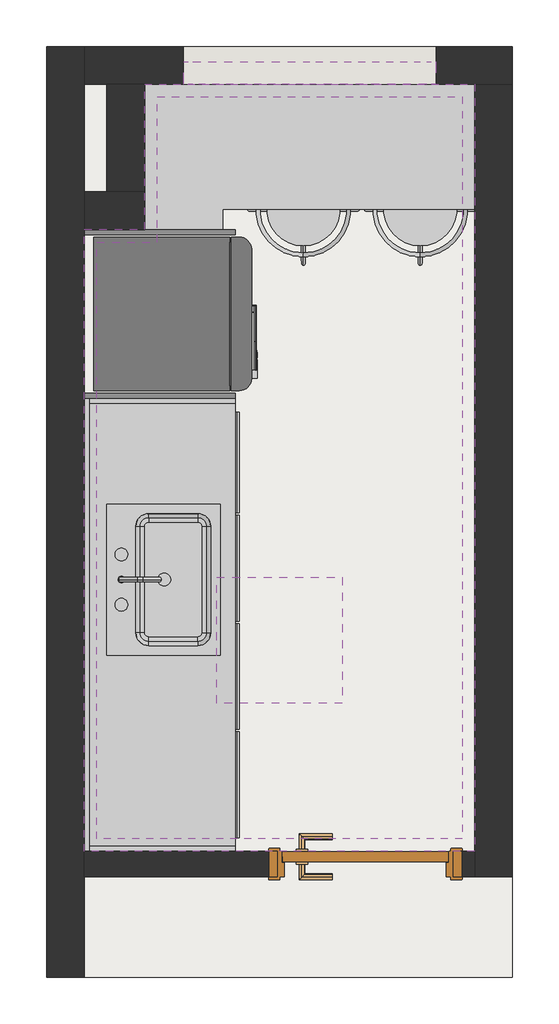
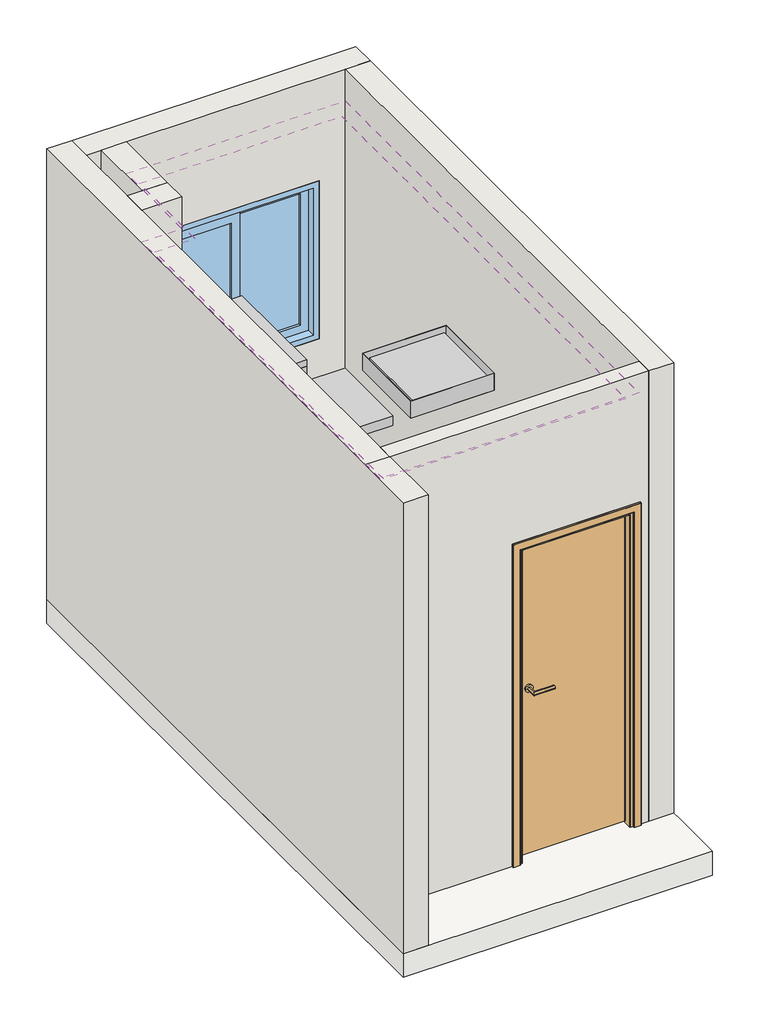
# One storey, incomplete: 6 walls, 3 furniture elements, 2 coverings, 1 door, 1 flow terminal, 1 light fixture, 1 proxy, 1 slab, 1 window.
"""IFC4 building model written with IfcOpenShell, lengths in millimetres."""

from ifc_helpers import new_model, si_unit, frame, origin, origin_with_axes, place, context, project, spatial, polyline, circle_curve, outline, extrude, faceted_brep, transform, mapped, element, save
from ifc_brep_helpers import plane_surface, revolved_surface, advanced_brep
from components import type_a_472c7ea6, porta_entrada_porta_entrada_e29db034, flow_terminal_7ddc1dd5, furniture_1e534c35, cozinha_completa_cozinha_completa_c358d093, plafon_ee325480, window_a0ad160f

model = new_model("IFC4")

# Units and contexts
model_context = context("Model", 3, world=origin())
ifc_project = project(units=[si_unit("LENGTHUNIT", "METRE", prefix="MILLI")], contexts=[model_context])

# Site, building, storey
site = spatial("IfcSite", under=ifc_project)
building = spatial("IfcBuilding", under=site)
storey = spatial("IfcBuildingStorey", under=building, Name="Nível 1", Elevation=0.0)

# Proxy
placement = place(None, origin())
type_a_shape = type_a_472c7ea6(model_context)
element("IfcBuildingElementProxy", 1, Name="SMEG_-_Retro_Refrigerator_13153 : Type A", ObjectType="SMEG_-_Retro_Refrigerator_13153 : Type A", at=placement, inside=storey, context=model_context, shape_type="MappedRepresentation", body=[
    mapped(type_a_shape, transform((-1344.1545114, 1537.5335274, 0.0), x_axis=(0.0, -1.0, 0.0), y_axis=(1.0, 0.0, 0.0), z_axis=(0.0, 0.0, 1.0))),
])

# Coverings
element("IfcCovering", 2, ObjectType="Simples", at=placement, inside=storey, context=model_context, shape_type="AdvancedBrep", body=[
    advanced_brep(
    [(-1331.9804234, -547.5642977, 2650.0), (118.0195766, -547.5642977, 2650.0), (118.0195766, 2399.1357023, 2650.0), (-1091.9804234, 2399.1357023, 2650.0), (-1091.9804234, 1822.4357023, 2650.0), (-1331.9804234, 1822.4357023, 2650.0), (118.0195766, -547.5642977, 2600.0), (-1331.9804234, -547.5642977, 2600.0), (-1331.9804234, 1822.4357023, 2600.0), (-1091.9804234, 1822.4357023, 2600.0), (-1091.9804234, 2399.1357023, 2600.0), (118.0195766, 2399.1357023, 2600.0), (-672.7970901, 2168.4357023, 2600.0), (-704.4970901, 2168.4357023, 2600.0), (-269.4637568, 2168.4357023, 2600.0), (-301.1637568, 2168.4357023, 2600.0), (-704.4970901, 2168.4357023, 2631.9926449), (-672.7970901, 2168.4357023, 2631.9926449), (-301.1637568, 2168.4357023, 2631.9926449), (-269.4637568, 2168.4357023, 2631.9926449)],
    [
        (0, 1),
        (1, 2),
        (2, 3),
        (3, 4),
        (4, 5),
        (5, 0),
        (6, 7),
        (7, 8),
        (8, 9),
        (9, 10),
        (10, 11),
        (11, 6),
        (12, 13, circle_curve(frame((-688.6470901, 2168.4357023, 2600.0), z_axis=(0.0, 0.0, 1.0), x_axis=(1.0, 0.0, 0.0)), 15.85)),
        (13, 12, circle_curve(frame((-688.6470901, 2168.4357023, 2600.0), z_axis=(0.0, 0.0, 1.0), x_axis=(1.0, 0.0, 0.0)), 15.85)),
        (14, 15, circle_curve(frame((-285.3137568, 2168.4357023, 2600.0), z_axis=(0.0, 0.0, 1.0), x_axis=(1.0, 0.0, 0.0)), 15.85)),
        (15, 14, circle_curve(frame((-285.3137568, 2168.4357023, 2600.0), z_axis=(0.0, 0.0, 1.0), x_axis=(1.0, 0.0, 0.0)), 15.85)),
        (0, 7),
        (6, 1),
        (11, 2),
        (10, 3),
        (9, 4),
        (8, 5),
        (16, 17, circle_curve(frame((-688.6470901, 2168.4357023, 2631.9926449), z_axis=(0.0, 0.0, -1.0), x_axis=(1.0, 0.0, 0.0)), 15.85)),
        (17, 16, circle_curve(frame((-688.6470901, 2168.4357023, 2631.9926449), z_axis=(0.0, 0.0, -1.0), x_axis=(1.0, 0.0, 0.0)), 15.85)),
        (16, 13),
        (12, 17),
        (18, 19, circle_curve(frame((-285.3137568, 2168.4357023, 2631.9926449), z_axis=(0.0, 0.0, -1.0), x_axis=(1.0, 0.0, 0.0)), 15.85)),
        (19, 18, circle_curve(frame((-285.3137568, 2168.4357023, 2631.9926449), z_axis=(0.0, 0.0, -1.0), x_axis=(1.0, 0.0, 0.0)), 15.85)),
        (18, 15),
        (14, 19),
    ],
    [
        plane_surface(frame((243.0195766, -547.5642977, 2650.0), z_axis=(0.0, 0.0, 1.0), x_axis=(1.0, 0.0, 0.0))),
        plane_surface(frame((243.0195766, -547.5642977, 2600.0), z_axis=(0.0, 0.0, -1.0), x_axis=(-1.0, 0.0, 0.0))),
        plane_surface(frame((-1331.9804234, -547.5642977, 2650.0), z_axis=(0.0, -1.0, 0.0), x_axis=(0.0, 0.0, -1.0))),
        plane_surface(frame((118.0195766, -547.5642977, 2650.0), z_axis=(1.0, 0.0, 0.0), x_axis=(0.0, 0.0, -1.0))),
        plane_surface(frame((118.0195766, 2399.1357023, 2650.0), z_axis=(0.0, 1.0, 0.0), x_axis=(0.0, 0.0, -1.0))),
        plane_surface(frame((-1091.9804234, 2399.1357023, 2650.0), z_axis=(-1.0, 0.0, 0.0), x_axis=(0.0, 0.0, -1.0))),
        plane_surface(frame((-1091.9804234, 1822.4357023, 2650.0), z_axis=(0.0, 1.0, 0.0), x_axis=(0.0, 0.0, -1.0))),
        plane_surface(frame((-1331.9804234, 1822.4357023, 2650.0), z_axis=(-1.0, 0.0, 0.0), x_axis=(0.0, 0.0, -1.0))),
        plane_surface(frame((-672.7970901, 2168.4357023, 2631.9926449), z_axis=(0.0, 0.0, -1.0), x_axis=(0.0, 1.0, 0.0))),
        revolved_surface(polyline([(-672.7970901, 2168.4357023, 2600.0), (-672.7970901, 2168.4357023, 2631.9926449)]), (-688.6470901, 2168.4357023, 2631.9926449), (0.0, 0.0, -1.0)),
        plane_surface(frame((-269.4637568, 2168.4357023, 2631.9926449), z_axis=(0.0, 0.0, -1.0), x_axis=(0.0, 1.0, 0.0))),
        revolved_surface(polyline([(-269.4637568, 2168.4357023, 2600.0), (-269.4637568, 2168.4357023, 2631.9926449)]), (-285.3137568, 2168.4357023, 2631.9926449), (0.0, 0.0, -1.0)),
    ],
    [
        (0, [[1, 2, 3, 4, 5, 6]]),
        (1, [[7, 8, 9, 10, 11, 12], [13, 14], [15, 16]]),
        (2, [[-1, 17, -7, 18]]),
        (3, [[-2, -18, -12, 19]]),
        (4, [[-3, -19, -11, 20]]),
        (5, [[-4, -20, -10, 21]]),
        (6, [[-5, -21, -9, 22]]),
        (7, [[-6, -22, -8, -17]]),
        (8, [[23, 24]]),
        (9, [[-23, 25, -13, 26]]),
        (9, [[-24, -26, -14, -25]]),
        (10, [[27, 28]]),
        (11, [[-27, 29, -15, 30]]),
        (11, [[-28, -30, -16, -29]]),
    ],
),
])
element("IfcCovering", 3, ObjectType="Simples", at=placement, inside=storey, context=model_context, shape_type="SweptSolid", body=[
    extrude(outline(polyline([(-1381.9804234, -597.5642977), (-1381.9804234, 1872.4357023), (-1141.9804234, 1872.4357023), (-1141.9804234, 2449.1357023), (168.0195766, 2449.1357023), (168.0195766, -597.5642977), (-1381.9804234, -597.5642977)]), holes=[polyline([(68.0195766, -497.5642977), (68.0195766, 2349.1357023), (-1041.9804234, 2349.1357023), (-1041.9804234, 1772.4357023), (-1281.9804234, 1772.4357023), (-1281.9804234, -497.5642977), (68.0195766, -497.5642977)])]), frame((0.0, 0.0, 2650.0), z_axis=(0.0, 0.0, 1.0), x_axis=(1.0, 0.0, 0.0)), (0.0, 0.0, 1.0), 50.0),
])

# Door
porta_entrada_porta_entrada_shape = porta_entrada_porta_entrada_e29db034(model_context)
element("IfcDoor", 4, ObjectType="Porta Entrada : Porta Entrada", at=placement, inside=storey, context=model_context, shape_type="MappedRepresentation", body=[
    mapped(porta_entrada_porta_entrada_shape, transform((-265.9814194, -647.5642977, 0.0), x_axis=(1.0, 0.0, 0.0), y_axis=(0.0, 1.0, 0.0), z_axis=(0.0, 0.0, 1.0))),
])

# Flow terminal
flow_terminal_shape = flow_terminal_7ddc1dd5(model_context)
element("IfcFlowTerminal", 5, ObjectType="Pia Simples : Pia Simples", at=placement, inside=storey, context=model_context, shape_type="MappedRepresentation", body=[
    mapped(flow_terminal_shape, transform((-1064.6350223, 466.7464617, 0.0), x_axis=(0.0, 1.0, 0.0), y_axis=(-1.0, 0.0, 0.0), z_axis=(0.0, 0.0, 1.0))),
])

# Furniture
furniture_shape = furniture_1e534c35(model_context)
element("IfcFurniture", 6, ObjectType="Banqueta de Bar : Banqueta", at=placement, inside=storey, context=model_context, shape_type="MappedRepresentation", body=[
    mapped(furniture_shape, transform((-511.9804234, 1952.4357023, 0.0), x_axis=(1.0, 0.0, 0.0), y_axis=(0.0, 1.0, 0.0), z_axis=(0.0, 0.0, 1.0))),
])
element("IfcFurniture", 7, ObjectType="Banqueta de Bar : Banqueta", at=placement, inside=storey, context=model_context, shape_type="MappedRepresentation", body=[
    mapped(furniture_shape, transform((-47.9804234, 1952.4357023, 0.0), x_axis=(1.0, 0.0, 0.0), y_axis=(0.0, 1.0, 0.0), z_axis=(0.0, 0.0, 1.0))),
])
cozinha_completa_cozinha_completa_shape = cozinha_completa_cozinha_completa_c358d093(model_context)
element("IfcFurniture", 8, ObjectType="Cozinha_Completa : Cozinha_Completa", at=placement, inside=storey, context=model_context, shape_type="MappedRepresentation", body=[
    mapped(cozinha_completa_cozinha_completa_shape, transform((-781.9804234, -597.5642977, 0.0), x_axis=(0.0, 1.0, 0.0), y_axis=(-1.0, 0.0, 0.0), z_axis=(0.0, 0.0, 1.0))),
])

# Light fixture
plafon_shape = plafon_ee325480(model_context)
element("IfcLightFixture", 9, ObjectType="Plafon : Lighting_Ceiling-Mounted_LumenWerx_Primo-Surface", at=placement, inside=storey, context=model_context, shape_type="MappedRepresentation", body=[
    mapped(plafon_shape, transform((-606.9804234, 241.4357023, 2600.0), x_axis=(1.0, 0.0, 0.0), y_axis=(0.0, -1.0, 0.0), z_axis=(0.0, 0.0, -1.0))),
])

# Slab
element("IfcSlab", 10, ObjectType="Genérico 150 mm", at=placement, inside=storey, context=model_context, shape_type="SweptSolid", body=[
    extrude(outline(polyline([(-1531.9804234, -1097.5642977), (-1531.9804234, 2599.1357023), (318.0195766, 2599.1357023), (318.0195766, -1097.5642977), (-1531.9804234, -1097.5642977)])), frame((0.0, 0.0, -150.0), z_axis=(0.0, 0.0, 1.0), x_axis=(1.0, 0.0, 0.0)), (0.0, 0.0, 1.0), 150.0),
])

# Walls
element("IfcWall", 11, ObjectType="Parede 10cm", at=placement, inside=storey, context=model_context, shape_type="SweptSolid", body=[
    extrude(outline(polyline([(0.0, 168.0195766), (2850.0, 168.0195766), (2850.0, -1381.9804234), (0.0, -1381.9804234), (0.0, -649.9824153), (2040.5009959, -649.9824153), (2040.5009959, 118.0195766), (0.0, 118.0195766), (0.0, 168.0195766)])), frame((0.0, -697.5642977, 0.0), z_axis=(0.0, 1.0, 0.0), x_axis=(0.0, 0.0, 1.0)), (0.0, 0.0, 1.0), 100.0),
])
element("IfcWall", 12, ObjectType="Parede 15cm", at=placement, inside=storey, context=model_context, shape_type="Brep", body=[
    faceted_brep([(-1381.9804234, -1097.5642977, 0.0), (-1381.9804234, -697.5642977, 0.0), (-1381.9804234, -597.5642977, 0.0), (-1381.9804234, 1872.4357023, 0.0), (-1381.9804234, 2022.4357023, 0.0), (-1381.9804234, 2449.1357023, 0.0), (-1381.9804234, 2599.1357023, 0.0), (-1381.9804234, 2599.1357023, 2850.0), (-1381.9804234, 2449.1357023, 2850.0), (-1381.9804234, 2022.4357023, 2850.0), (-1381.9804234, 1872.4357023, 2850.0), (-1381.9804234, -597.5642977, 2850.0), (-1381.9804234, -697.5642977, 2850.0), (-1381.9804234, -1097.5642977, 2850.0), (-1531.9804234, -1097.5642977, 0.0), (-1531.9804234, -1097.5642977, 2850.0), (-1531.9804234, -697.5642977, 2850.0), (-1531.9804234, 2599.1357023, 2850.0), (-1531.9804234, 2599.1357023, 0.0)], [[[0, 1, 2, 3, 4, 5, 6, 7, 8, 9, 10, 11, 12, 13]], [[14, 15, 16, 17, 18]], [[6, 5, 4, 3, 2, 1, 0, 14, 18]], [[0, 13, 15, 14]], [[7, 6, 18, 17]], [[13, 12, 16, 15]], [[12, 11, 10, 9, 8, 7, 17, 16]]]),
])
element("IfcWall", 13, ObjectType="Parede 15cm", at=placement, inside=storey, context=model_context, shape_type="Brep", body=[
    faceted_brep([(-1381.9804234, 2449.1357023, 0.0), (-1291.9804234, 2449.1357023, 0.0), (-1141.9804234, 2449.1357023, 0.0), (168.0195766, 2449.1357023, 0.0), (318.0195766, 2449.1357023, 0.0), (318.0195766, 2449.1357023, 2850.0), (168.0195766, 2449.1357023, 2850.0), (-1141.9804234, 2449.1357023, 2850.0), (-1291.9804234, 2449.1357023, 2850.0), (-1381.9804234, 2449.1357023, 2850.0), (-986.9804234, 2449.1357023, 1200.0), (-986.9804234, 2449.1357023, 2200.0), (13.0195766, 2449.1357023, 2200.0), (13.0195766, 2449.1357023, 1200.0), (-1381.9804234, 2599.1357023, 0.0), (-1381.9804234, 2599.1357023, 2850.0), (318.0195766, 2599.1357023, 2850.0), (318.0195766, 2599.1357023, 0.0), (-986.9804234, 2599.1357023, 1200.0), (13.0195766, 2599.1357023, 1200.0), (13.0195766, 2599.1357023, 2200.0), (-986.9804234, 2599.1357023, 2200.0)], [[[0, 1, 2, 3, 4, 5, 6, 7, 8, 9], [10, 11, 12, 13]], [[14, 15, 16, 17], [18, 19, 20, 21]], [[4, 3, 2, 1, 0, 14, 17]], [[0, 9, 15, 14]], [[5, 4, 17, 16]], [[11, 10, 18, 21]], [[12, 11, 21, 20]], [[13, 12, 20, 19]], [[10, 13, 19, 18]], [[9, 8, 7, 6, 5, 16, 15]]]),
])
element("IfcWall", 14, ObjectType="Parede 15cm", at=placement, inside=storey, context=model_context, shape_type="SweptSolid", body=[
    extrude(outline(polyline([(-1291.9804234, 2022.4357023), (-1291.9804234, 2449.1357023), (-1141.9804234, 2449.1357023), (-1141.9804234, 2022.4357023), (-1291.9804234, 2022.4357023)])), origin_with_axes(), (0.0, 0.0, 1.0), 2850.0),
])
element("IfcWall", 15, ObjectType="Parede 15cm", at=placement, inside=storey, context=model_context, shape_type="Brep", body=[
    faceted_brep([(-1141.9804234, 2022.4357023, 0.0), (-1291.9804234, 2022.4357023, 0.0), (-1381.9804234, 2022.4357023, 0.0), (-1381.9804234, 2022.4357023, 2850.0), (-1291.9804234, 2022.4357023, 2850.0), (-1141.9804234, 2022.4357023, 2850.0), (-1141.9804234, 1872.4357023, 0.0), (-1141.9804234, 1872.4357023, 2850.0), (-1381.9804234, 1872.4357023, 2850.0), (-1381.9804234, 1872.4357023, 0.0)], [[[0, 1, 2, 3, 4, 5]], [[6, 7, 8, 9]], [[2, 1, 0, 6, 9]], [[0, 5, 7, 6]], [[3, 2, 9, 8]], [[5, 4, 3, 8, 7]]]),
])
element("IfcWall", 16, ObjectType="Parede 15cm", at=placement, inside=storey, context=model_context, shape_type="Brep", body=[
    faceted_brep([(168.0195766, 2449.1357023, 0.0), (168.0195766, -597.5642977, 0.0), (168.0195766, -697.5642977, 0.0), (168.0195766, -697.5642977, 2850.0), (168.0195766, -597.5642977, 2850.0), (168.0195766, 2449.1357023, 2850.0), (318.0195766, 2449.1357023, 0.0), (318.0195766, 2449.1357023, 2850.0), (318.0195766, -697.5642977, 2850.0), (318.0195766, -697.5642977, 0.0)], [[[0, 1, 2, 3, 4, 5]], [[6, 7, 8, 9]], [[2, 1, 0, 6, 9]], [[0, 5, 7, 6]], [[3, 2, 9, 8]], [[5, 4, 3, 8, 7]]]),
])

# Window
window_shape = window_a0ad160f(model_context)
element("IfcWindow", 17, ObjectType="Janela de correr - 2 Painéis : Janela de correr - 2 Painéis", at=placement, inside=storey, context=model_context, shape_type="MappedRepresentation", body=[
    mapped(window_shape, transform((-486.9804234, 2524.1357023, 550.0), x_axis=(1.0, 0.0, 0.0), y_axis=(0.0, 1.0, 0.0), z_axis=(0.0, 0.0, 1.0))),
])

save(model, "model.ifc")
